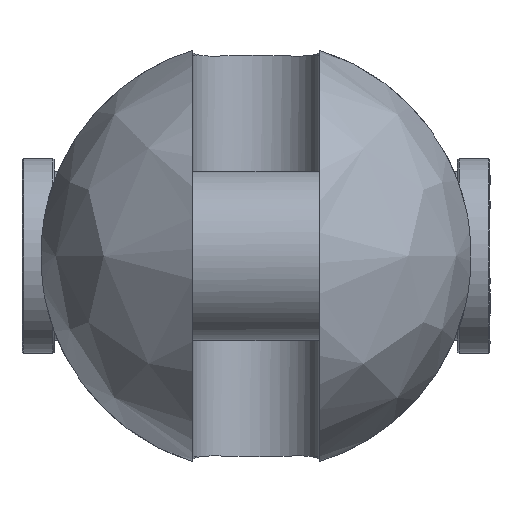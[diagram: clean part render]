
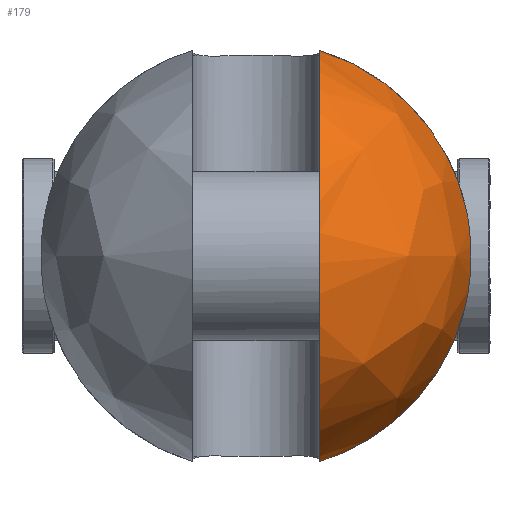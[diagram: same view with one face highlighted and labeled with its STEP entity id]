
A CAD part, left-side view. The second image highlights one B-rep face of the part: STEP entity #179.
In plain terms, the highlighted free-form (B-spline) face has degree [2, 2] with [9, 5] control points.
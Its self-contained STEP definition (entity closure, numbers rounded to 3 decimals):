
#179=ADVANCED_FACE('',(#320),#2417,.T.);
#320=FACE_OUTER_BOUND('',#481,.T.);
#481=EDGE_LOOP('',(#1194,#1195,#1196,#1197));
#1194=ORIENTED_EDGE('',*,*,#1579,.T.);
#1195=ORIENTED_EDGE('',*,*,#1603,.F.);
#1196=ORIENTED_EDGE('',*,*,#1615,.T.);
#1197=ORIENTED_EDGE('',*,*,#1595,.F.);
#1579=EDGE_CURVE('',#2249,#2248,#1983,.T.);
#1595=EDGE_CURVE('',#2249,#2261,#1993,.T.);
#1603=EDGE_CURVE('',#2268,#2248,#1994,.T.);
#1615=EDGE_CURVE('',#2268,#2261,#1789,.T.);
#1789=B_SPLINE_CURVE_WITH_KNOTS('',3,(#6139,#6140,#6141,#6142,#6143,#6144,
#6145,#6146,#6147,#6148,#6149,#6150,#6151,#6152),.UNSPECIFIED.,.F.,.F.,
(4,2,2,2,2,2,4),(0.,2.95,9.508,16.065,
22.623,29.181,32.131),.UNSPECIFIED.);
#1983=(
BOUNDED_CURVE()
B_SPLINE_CURVE(2,(#5907,#5908,#5909,#5910,#5911),.UNSPECIFIED.,.F.,.F.)
B_SPLINE_CURVE_WITH_KNOTS((3,2,3),(-198.089,-99.044,
0.),.UNSPECIFIED.)
CURVE()
GEOMETRIC_REPRESENTATION_ITEM()
RATIONAL_B_SPLINE_CURVE((1.,0.707,1.,0.707,1.))
REPRESENTATION_ITEM('')
);
#1993=(
BOUNDED_CURVE()
B_SPLINE_CURVE(2,(#6009,#6010,#6011),.UNSPECIFIED.,.F.,.F.)
B_SPLINE_CURVE_WITH_KNOTS((3,3),(0.,68.507),.UNSPECIFIED.)
CURVE()
GEOMETRIC_REPRESENTATION_ITEM()
RATIONAL_B_SPLINE_CURVE((1.,0.868,1.))
REPRESENTATION_ITEM('')
);
#1994=(
BOUNDED_CURVE()
B_SPLINE_CURVE(2,(#6066,#6067,#6068),.UNSPECIFIED.,.F.,.F.)
B_SPLINE_CURVE_WITH_KNOTS((3,3),(0.,68.507),.UNSPECIFIED.)
CURVE()
GEOMETRIC_REPRESENTATION_ITEM()
RATIONAL_B_SPLINE_CURVE((1.,0.868,1.))
REPRESENTATION_ITEM('')
);
#2248=VERTEX_POINT('',#5767);
#2249=VERTEX_POINT('',#5768);
#2261=VERTEX_POINT('',#5780);
#2268=VERTEX_POINT('',#5787);
#2417=(
BOUNDED_SURFACE()
B_SPLINE_SURFACE(2,2,((#5481,#5482,#5483,#5484,#5485),(#5486,#5487,#5488,
#5489,#5490),(#5491,#5492,#5493,#5494,#5495),(#5496,#5497,#5498,#5499,#5500),
(#5501,#5502,#5503,#5504,#5505),(#5506,#5507,#5508,#5509,#5510),(#5511,
#5512,#5513,#5514,#5515),(#5516,#5517,#5518,#5519,#5520),(#5521,#5522,#5523,
#5524,#5525)),.UNSPECIFIED.,.T.,.F.,.F.)
B_SPLINE_SURFACE_WITH_KNOTS((3,2,2,2,3),(3,2,3),(0.,103.673,207.345,
311.018,414.69),(0.,103.673,207.345),
 .UNSPECIFIED.)
GEOMETRIC_REPRESENTATION_ITEM()
RATIONAL_B_SPLINE_SURFACE(((1.,0.707,1.,0.707,1.),
(0.707,0.5,0.707,0.5,0.707),(1.,0.707,
1.,0.707,1.),(0.707,0.5,0.707,0.5,0.707),
(1.,0.707,1.,0.707,1.),(0.707,0.5,0.707,
0.5,0.707),(1.,0.707,1.,0.707,1.),(0.707,
0.5,0.707,0.5,0.707),(1.,0.707,1.,0.707,
1.)))
REPRESENTATION_ITEM('')
SURFACE()
);
#5481=CARTESIAN_POINT('',(-93.,0.,0.));
#5482=CARTESIAN_POINT('',(-93.,66.,0.));
#5483=CARTESIAN_POINT('',(-27.,66.,0.));
#5484=CARTESIAN_POINT('',(39.,66.,0.));
#5485=CARTESIAN_POINT('',(39.,0.,0.));
#5486=CARTESIAN_POINT('',(-93.,0.,0.));
#5487=CARTESIAN_POINT('',(-93.,66.,66.));
#5488=CARTESIAN_POINT('',(-27.,66.,66.));
#5489=CARTESIAN_POINT('',(39.,66.,66.));
#5490=CARTESIAN_POINT('',(39.,0.,0.));
#5491=CARTESIAN_POINT('',(-93.,0.,0.));
#5492=CARTESIAN_POINT('',(-93.,0.,66.));
#5493=CARTESIAN_POINT('',(-27.,0.,66.));
#5494=CARTESIAN_POINT('',(39.,0.,66.));
#5495=CARTESIAN_POINT('',(39.,0.,0.));
#5496=CARTESIAN_POINT('',(-93.,0.,0.));
#5497=CARTESIAN_POINT('',(-93.,-66.,66.));
#5498=CARTESIAN_POINT('',(-27.,-66.,66.));
#5499=CARTESIAN_POINT('',(39.,-66.,66.));
#5500=CARTESIAN_POINT('',(39.,0.,0.));
#5501=CARTESIAN_POINT('',(-93.,0.,0.));
#5502=CARTESIAN_POINT('',(-93.,-66.,0.));
#5503=CARTESIAN_POINT('',(-27.,-66.,0.));
#5504=CARTESIAN_POINT('',(39.,-66.,0.));
#5505=CARTESIAN_POINT('',(39.,0.,0.));
#5506=CARTESIAN_POINT('',(-93.,0.,0.));
#5507=CARTESIAN_POINT('',(-93.,-66.,-66.));
#5508=CARTESIAN_POINT('',(-27.,-66.,-66.));
#5509=CARTESIAN_POINT('',(39.,-66.,-66.));
#5510=CARTESIAN_POINT('',(39.,0.,0.));
#5511=CARTESIAN_POINT('',(-93.,0.,0.));
#5512=CARTESIAN_POINT('',(-93.,0.,-66.));
#5513=CARTESIAN_POINT('',(-27.,0.,-66.));
#5514=CARTESIAN_POINT('',(39.,0.,-66.));
#5515=CARTESIAN_POINT('',(39.,0.,0.));
#5516=CARTESIAN_POINT('',(-93.,0.,0.));
#5517=CARTESIAN_POINT('',(-93.,66.,-66.));
#5518=CARTESIAN_POINT('',(-27.,66.,-66.));
#5519=CARTESIAN_POINT('',(39.,66.,-66.));
#5520=CARTESIAN_POINT('',(39.,0.,0.));
#5521=CARTESIAN_POINT('',(-93.,0.,0.));
#5522=CARTESIAN_POINT('',(-93.,66.,0.));
#5523=CARTESIAN_POINT('',(-27.,66.,0.));
#5524=CARTESIAN_POINT('',(39.,66.,0.));
#5525=CARTESIAN_POINT('',(39.,0.,0.));
#5767=CARTESIAN_POINT('',(-27.,-19.5,-63.054));
#5768=CARTESIAN_POINT('',(-27.,-19.5,63.054));
#5780=CARTESIAN_POINT('',(-27.,-64.218,15.232));
#5787=CARTESIAN_POINT('',(-27.,-64.218,-15.232));
#5907=CARTESIAN_POINT('',(-27.,-19.5,63.054));
#5908=CARTESIAN_POINT('',(-90.054,-19.5,63.054));
#5909=CARTESIAN_POINT('',(-90.054,-19.5,0.));
#5910=CARTESIAN_POINT('',(-90.054,-19.5,-63.054));
#5911=CARTESIAN_POINT('',(-27.,-19.5,-63.054));
#6009=CARTESIAN_POINT('',(-27.,-19.5,63.054));
#6010=CARTESIAN_POINT('',(-27.,-55.518,51.915));
#6011=CARTESIAN_POINT('',(-27.,-64.218,15.232));
#6066=CARTESIAN_POINT('',(-27.,-64.218,-15.232));
#6067=CARTESIAN_POINT('',(-27.,-55.518,-51.915));
#6068=CARTESIAN_POINT('',(-27.,-19.5,-63.054));
#6139=CARTESIAN_POINT('',(-27.,-64.218,-15.232));
#6140=CARTESIAN_POINT('',(-27.479,-64.42,-14.383));
#6141=CARTESIAN_POINT('',(-27.92,-64.604,-13.508));
#6142=CARTESIAN_POINT('',(-29.206,-65.14,-10.619));
#6143=CARTESIAN_POINT('',(-29.886,-65.421,-8.519));
#6144=CARTESIAN_POINT('',(-30.783,-65.79,-4.259));
#6145=CARTESIAN_POINT('',(-31.,-65.879,-2.1));
#6146=CARTESIAN_POINT('',(-31.,-65.879,2.1));
#6147=CARTESIAN_POINT('',(-30.783,-65.79,4.259));
#6148=CARTESIAN_POINT('',(-29.886,-65.421,8.519));
#6149=CARTESIAN_POINT('',(-29.206,-65.14,10.619));
#6150=CARTESIAN_POINT('',(-27.92,-64.604,13.508));
#6151=CARTESIAN_POINT('',(-27.479,-64.42,14.383));
#6152=CARTESIAN_POINT('',(-27.,-64.218,15.232));
